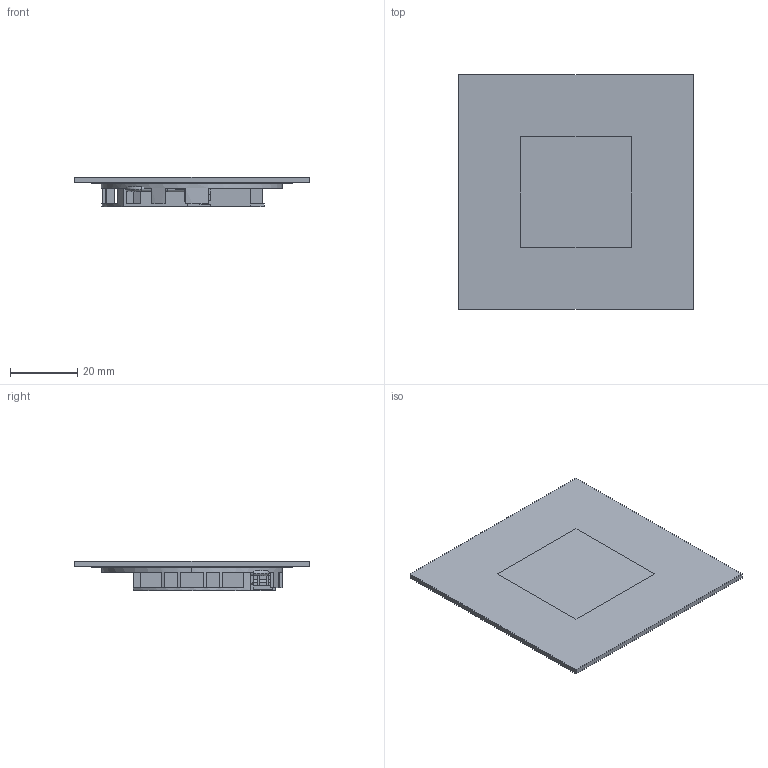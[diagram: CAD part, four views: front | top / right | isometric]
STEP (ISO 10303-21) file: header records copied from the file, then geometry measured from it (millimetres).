
FILE_DESCRIPTION (( 'STEP AP203' ), '1' );
FILE_NAME ('QuadroPoint_24.STEP', '2024-12-02T08:24:55', ( '' ), ( '' ), 'SwSTEP 2.0', 'SolidWorks 2023', '' );
FILE_SCHEMA (( 'CONFIG_CONTROL_DESIGN' ));
Length unit declared in the file: millimetre
Products named in the file (9): Buchse_JST_auflötbar_3897006; 3897006_nw_EDS_2024_Abdeckung; 3897006_nw_EDS_2024_LED_Streuplatte_Inlay_NEU_ab_2024_Amnfrage; QuadroPoint_24; 3897006_nw_EDS_2024_3M_Klebeband; 3897006_nw_EDS_2024_Streuscheibe; 3897006_nw_EDS_2024_LED_Halterung_Neu_ab_2024_zur_Anfrage; LED_PCB_Neu_ab_2024_Anfrage; 90er_Umlenkung_Schrumpfschlauch_3897006_15mm_inkl-Schrumpfschlauch
Assembly tree (8 placements, depth 2):
  QuadroPoint_24
    Buchse_JST_auflötbar_3897006
    90er_Umlenkung_Schrumpfschlauch_3897006_15mm_inkl-Schrumpfschlauch
    3897006_nw_EDS_2024_3M_Klebeband
    3897006_nw_EDS_2024_Abdeckung
    3897006_nw_EDS_2024_LED_Halterung_Neu_ab_2024_zur_Anfrage
    3897006_nw_EDS_2024_LED_Streuplatte_Inlay_NEU_ab_2024_Amnfrage
    3897006_nw_EDS_2024_Streuscheibe
    LED_PCB_Neu_ab_2024_Anfrage
Bounding box: 70 x 70 x 8.9 mm (x, y, z)
Volume: 14998.9 mm3; surface area: 22966.6 mm2
Topology: 9 solids, 9 shells, 334 faces, 868 edges, 576 vertices
Faces by surface type: plane 300, cylinder 30, torus 4
Entity records: 11039 total; most frequent: CARTESIAN_POINT 1789, ORIENTED_EDGE 1736, DIRECTION 1644, EDGE_CURVE 868, VECTOR 782, LINE 782, VERTEX_POINT 576, AXIS2_PLACEMENT_3D 431
